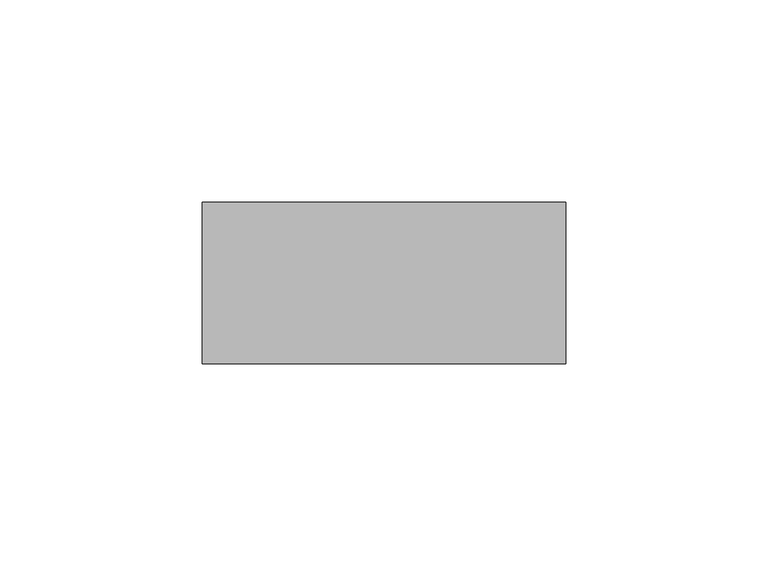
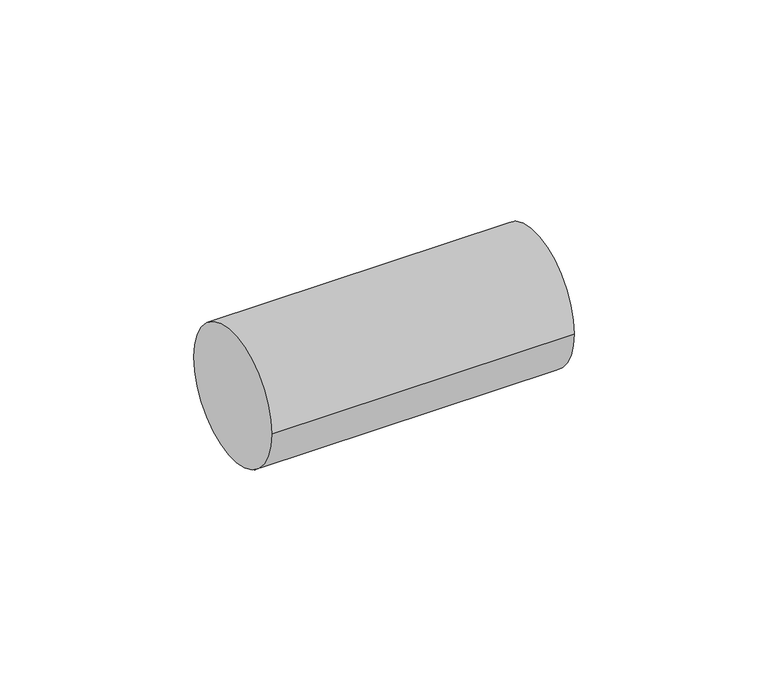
"""IFC4 building model written with IfcOpenShell, lengths in millimetres: valve geometry, EVRA_Термоголовка EVRA MТB140 : EVRA MТB140."""

from ifc_helpers import new_model, si_unit, point, frame, origin, origin_2d, place, context, project, spatial, circle_curve, trimmed, segment, composite_curve, outline, extrude, source, transform, mapped, element, save


def valve_d3faaedd(model_context):
    return source(origin(), model_context, "Body", "SweptSolid", [
        extrude(outline(composite_curve([segment(trimmed(circle_curve(origin_2d(), 20.0), [point((-20.0, 0.0))], [point((20.0, 0.0))], False, "CARTESIAN"), True, "CONTINUOUS"), segment(trimmed(circle_curve(origin_2d(), 20.0), [point((20.0, 0.0))], [point((-20.0, 0.0))], False, "CARTESIAN"), True, "CONTINUOUS")], self_intersect=False)), frame((-990.0, 0.0, 0.0), z_axis=(1.0, 0.0, 0.0), x_axis=(0.0, 1.0, 0.0)), (0.0, 0.0, 1.0), 90.0),
    ])


if __name__ == "__main__":
    model = new_model("IFC4")
    model_context = context("Model", 3, world=origin())
    ifc_project = project(units=[si_unit("LENGTHUNIT", "METRE", prefix="MILLI")], contexts=[model_context])
    site = spatial("IfcSite", under=ifc_project)
    building = spatial("IfcBuilding", under=site)
    placement = place(None, origin())
    valve_shape = valve_d3faaedd(model_context)
    element("IfcValve", 1, ObjectType="EVRA_Термоголовка EVRA MТB140 : EVRA MТB140", at=placement, inside=building, context=model_context, shape_type="MappedRepresentation", body=[
        mapped(valve_shape, transform((0.0, 0.0, 0.0), x_axis=(1.0, 0.0, 0.0), y_axis=(0.0, 1.0, 0.0), z_axis=(0.0, 0.0, 1.0))),
    ])
    save(model, "model.ifc")
